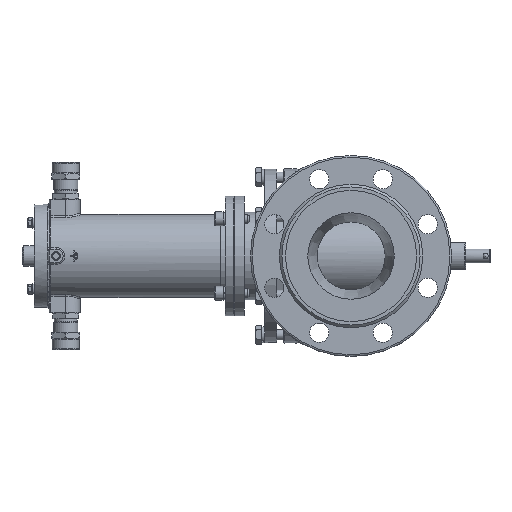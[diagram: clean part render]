
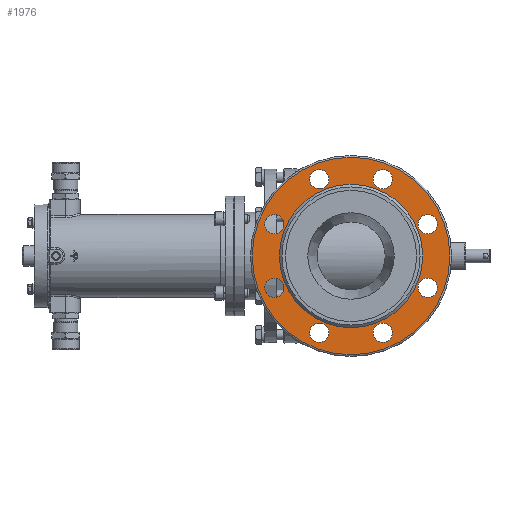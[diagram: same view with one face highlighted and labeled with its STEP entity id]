
A CAD part, left-side view. The second image highlights one B-rep face of the part: STEP entity #1976.
In plain terms, the highlighted planar face has unit normal (-1, 0, 0).
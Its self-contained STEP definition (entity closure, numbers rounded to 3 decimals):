
#1976=ADVANCED_FACE('',(#21917,#21919,#21921,#21923,#21925,#21927,#21929,#21931,
#21933,#21935),#21937,.T.);
#21917=FACE_BOUND('',#21918,.T.);
#21918=EDGE_LOOP('',(#33414));
#21919=FACE_BOUND('',#21920,.T.);
#21920=EDGE_LOOP('',(#33415));
#21921=FACE_BOUND('',#21922,.T.);
#21922=EDGE_LOOP('',(#33416));
#21923=FACE_BOUND('',#21924,.T.);
#21924=EDGE_LOOP('',(#33417));
#21925=FACE_BOUND('',#21926,.T.);
#21926=EDGE_LOOP('',(#33418));
#21927=FACE_BOUND('',#21928,.T.);
#21928=EDGE_LOOP('',(#33419));
#21929=FACE_BOUND('',#21930,.T.);
#21930=EDGE_LOOP('',(#33420));
#21931=FACE_BOUND('',#21932,.T.);
#21932=EDGE_LOOP('',(#33421));
#21933=FACE_BOUND('',#21934,.T.);
#21934=EDGE_LOOP('',(#33422));
#21935=FACE_OUTER_BOUND('',#21936,.T.);
#21936=EDGE_LOOP('',(#33423));
#21937=PLANE('',#21938);
#21938=AXIS2_PLACEMENT_3D('',#21939,#21940,#21941);
#21939=CARTESIAN_POINT('',(-151.,0.,0.));
#21940=DIRECTION('',(-1.,0.,0.));
#21941=DIRECTION('',(0.,1.,0.));
#33414=ORIENTED_EDGE('',*,*,#41249,.F.);
#33415=ORIENTED_EDGE('',*,*,#41218,.T.);
#33416=ORIENTED_EDGE('',*,*,#41216,.T.);
#33417=ORIENTED_EDGE('',*,*,#41214,.T.);
#33418=ORIENTED_EDGE('',*,*,#41212,.T.);
#33419=ORIENTED_EDGE('',*,*,#41210,.T.);
#33420=ORIENTED_EDGE('',*,*,#41208,.T.);
#33421=ORIENTED_EDGE('',*,*,#41206,.T.);
#33422=ORIENTED_EDGE('',*,*,#41204,.T.);
#33423=ORIENTED_EDGE('',*,*,#41250,.T.);
#41204=EDGE_CURVE('',#49749,#49749,#49751,.F.);
#41206=EDGE_CURVE('',#49752,#49752,#49754,.F.);
#41208=EDGE_CURVE('',#49755,#49755,#49757,.F.);
#41210=EDGE_CURVE('',#49758,#49758,#49760,.F.);
#41212=EDGE_CURVE('',#49761,#49761,#49763,.F.);
#41214=EDGE_CURVE('',#49764,#49764,#49766,.F.);
#41216=EDGE_CURVE('',#49767,#49767,#49769,.F.);
#41218=EDGE_CURVE('',#49770,#49770,#49772,.F.);
#41249=EDGE_CURVE('',#49827,#49827,#49828,.T.);
#41250=EDGE_CURVE('',#49829,#49829,#49830,.T.);
#49749=VERTEX_POINT('',#80092);
#49751=CIRCLE('',#80096,11.);
#49752=VERTEX_POINT('',#80100);
#49754=CIRCLE('',#80104,11.);
#49755=VERTEX_POINT('',#80108);
#49757=CIRCLE('',#80112,11.);
#49758=VERTEX_POINT('',#80116);
#49760=CIRCLE('',#80120,11.);
#49761=VERTEX_POINT('',#80124);
#49763=CIRCLE('',#80128,11.);
#49764=VERTEX_POINT('',#80132);
#49766=CIRCLE('',#80136,11.);
#49767=VERTEX_POINT('',#80140);
#49769=CIRCLE('',#80144,11.);
#49770=VERTEX_POINT('',#80148);
#49772=CIRCLE('',#80152,11.);
#49827=VERTEX_POINT('',#80404);
#49828=CIRCLE('',#80405,82.);
#49829=VERTEX_POINT('',#80409);
#49830=CIRCLE('',#80410,113.);
#80092=CARTESIAN_POINT('',(-151.,87.769,25.355));
#80096=AXIS2_PLACEMENT_3D('',#80097,#80098,#80099);
#80097=CARTESIAN_POINT('',(-151.,87.769,36.355));
#80098=DIRECTION('',(-1.,0.,0.));
#80099=DIRECTION('',(0.,0.,-1.));
#80100=CARTESIAN_POINT('',(-151.,87.769,-47.355));
#80104=AXIS2_PLACEMENT_3D('',#80105,#80106,#80107);
#80105=CARTESIAN_POINT('',(-151.,87.769,-36.355));
#80106=DIRECTION('',(-1.,0.,0.));
#80107=DIRECTION('',(0.,0.,-1.));
#80108=CARTESIAN_POINT('',(-151.,36.355,-98.769));
#80112=AXIS2_PLACEMENT_3D('',#80113,#80114,#80115);
#80113=CARTESIAN_POINT('',(-151.,36.355,-87.769));
#80114=DIRECTION('',(-1.,0.,0.));
#80115=DIRECTION('',(0.,0.,-1.));
#80116=CARTESIAN_POINT('',(-151.,36.355,76.769));
#80120=AXIS2_PLACEMENT_3D('',#80121,#80122,#80123);
#80121=CARTESIAN_POINT('',(-151.,36.355,87.769));
#80122=DIRECTION('',(-1.,0.,0.));
#80123=DIRECTION('',(0.,0.,-1.));
#80124=CARTESIAN_POINT('',(-151.,-87.769,25.355));
#80128=AXIS2_PLACEMENT_3D('',#80129,#80130,#80131);
#80129=CARTESIAN_POINT('',(-151.,-87.769,36.355));
#80130=DIRECTION('',(-1.,0.,0.));
#80131=DIRECTION('',(0.,0.,-1.));
#80132=CARTESIAN_POINT('',(-151.,-87.769,-47.355));
#80136=AXIS2_PLACEMENT_3D('',#80137,#80138,#80139);
#80137=CARTESIAN_POINT('',(-151.,-87.769,-36.355));
#80138=DIRECTION('',(-1.,0.,0.));
#80139=DIRECTION('',(0.,0.,-1.));
#80140=CARTESIAN_POINT('',(-151.,-36.355,-98.769));
#80144=AXIS2_PLACEMENT_3D('',#80145,#80146,#80147);
#80145=CARTESIAN_POINT('',(-151.,-36.355,-87.769));
#80146=DIRECTION('',(-1.,0.,0.));
#80147=DIRECTION('',(0.,0.,-1.));
#80148=CARTESIAN_POINT('',(-151.,-36.355,76.769));
#80152=AXIS2_PLACEMENT_3D('',#80153,#80154,#80155);
#80153=CARTESIAN_POINT('',(-151.,-36.355,87.769));
#80154=DIRECTION('',(-1.,0.,0.));
#80155=DIRECTION('',(0.,0.,-1.));
#80404=CARTESIAN_POINT('',(-151.,82.,0.));
#80405=AXIS2_PLACEMENT_3D('',#80406,#80407,#80408);
#80406=CARTESIAN_POINT('',(-151.,0.,0.));
#80407=DIRECTION('',(-1.,0.,0.));
#80408=DIRECTION('',(0.,1.,0.));
#80409=CARTESIAN_POINT('',(-151.,113.,0.));
#80410=AXIS2_PLACEMENT_3D('',#80411,#80412,#80413);
#80411=CARTESIAN_POINT('',(-151.,0.,0.));
#80412=DIRECTION('',(-1.,0.,0.));
#80413=DIRECTION('',(0.,1.,0.));
